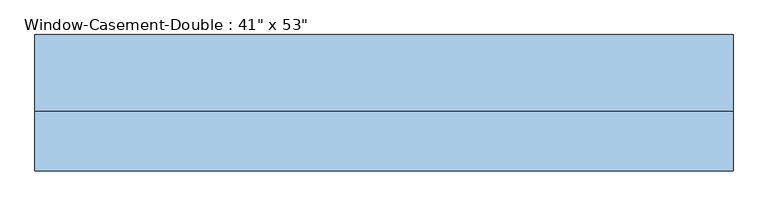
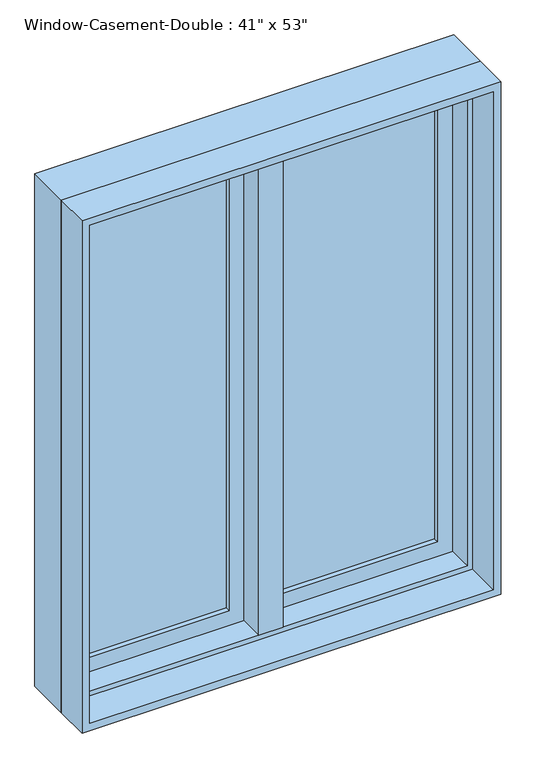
"""IFC4 building model written with IfcOpenShell, lengths in millimetres: window geometry."""

from ifc_helpers import new_model, si_unit, frame, origin, place, context, project, spatial, polyline, outline, extrude, faceted_brep, source, transform, mapped, element, save


def window_5044d55b(model_context):
    return source(origin(), model_context, "Body", "SolidModel", [
        faceted_brep([(9.525, 111.125, 2247.9), (-9.525, 111.125, 2247.9), (-9.525, 60.325, 2247.9), (9.525, 60.325, 2247.9), (9.525, 111.125, 927.1), (9.525, 60.325, 927.1), (-9.525, 60.325, 927.1), (-9.525, 111.125, 927.1), (-9.525, 60.325, 946.15), (-9.525, 60.325, 2228.85), (-30.1625, 60.325, 946.15), (-30.1625, 60.325, 2228.85), (-30.1625, -3.175, 946.15), (-30.1625, -3.175, 2228.85), (30.1625, -3.175, 946.15), (30.1625, -3.175, 2228.85), (30.1625, 60.325, 946.15), (30.1625, 60.325, 2228.85), (9.525, 60.325, 946.15), (9.525, 60.325, 2228.85)], [[[0, 1, 2, 3]], [[4, 5, 6, 7]], [[1, 0, 4, 7]], [[2, 1, 7, 6, 8, 9]], [[9, 8, 10, 11]], [[11, 10, 12, 13]], [[13, 12, 14, 15]], [[15, 14, 16, 17]], [[17, 16, 18, 19]], [[0, 3, 19, 18, 5, 4]], [[18, 8, 6, 5]], [[9, 19, 3, 2]], [[8, 18, 16, 14, 12, 10]], [[19, 9, 11, 13, 15, 17]]]),
        extrude(outline(polyline([(-66.675, 92.075), (-66.675, 85.725), (-450.85, 85.725), (-450.85, 92.075), (-66.675, 92.075)])), frame((0.0, 0.0, 984.25), z_axis=(0.0, 0.0, 1.0), x_axis=(1.0, 0.0, 0.0)), (0.0, 0.0, 1.0), 1206.5),
        extrude(outline(polyline([(-450.85, 73.025), (-450.85, 79.375), (-66.675, 79.375), (-66.675, 73.025), (-450.85, 73.025)])), frame((0.0, 0.0, 984.25), z_axis=(0.0, 0.0, 1.0), x_axis=(1.0, 0.0, 0.0)), (0.0, 0.0, 1.0), 1206.5),
        extrude(outline(polyline([(450.85, 92.075), (450.85, 85.725), (66.675, 85.725), (66.675, 92.075), (450.85, 92.075)])), frame((0.0, 0.0, 984.25), z_axis=(0.0, 0.0, 1.0), x_axis=(1.0, 0.0, 0.0)), (0.0, 0.0, 1.0), 1206.5),
        extrude(outline(polyline([(66.675, 73.025), (66.675, 79.375), (450.85, 79.375), (450.85, 73.025), (66.675, 73.025)])), frame((0.0, 0.0, 984.25), z_axis=(0.0, 0.0, 1.0), x_axis=(1.0, 0.0, 0.0)), (0.0, 0.0, 1.0), 1206.5),
        extrude(outline(polyline([(2247.9, -508.0), (927.1, -508.0), (927.1, -9.525), (2247.9, -9.525), (2247.9, -508.0)]), holes=[polyline([(2190.75, -66.675), (984.25, -66.675), (984.25, -450.85), (2190.75, -450.85), (2190.75, -66.675)])]), frame((0.0, 60.325, 0.0), z_axis=(0.0, 1.0, 0.0), x_axis=(0.0, 0.0, 1.0)), (0.0, 0.0, 1.0), 44.45),
        extrude(outline(polyline([(927.1, 508.0), (2247.9, 508.0), (2247.9, 9.525), (927.1, 9.525), (927.1, 508.0)]), holes=[polyline([(984.25, 66.675), (2190.75, 66.675), (2190.75, 450.85), (984.25, 450.85), (984.25, 66.675)])]), frame((0.0, 60.325, 0.0), z_axis=(0.0, 1.0, 0.0), x_axis=(0.0, 0.0, 1.0)), (0.0, 0.0, 1.0), 44.45),
        extrude(outline(polyline([(2260.6, -520.7), (914.4, -520.7), (914.4, 520.7), (2260.6, 520.7), (2260.6, -520.7)]), holes=[polyline([(2241.55, 501.65), (933.45, 501.65), (933.45, -501.65), (2241.55, -501.65), (2241.55, 501.65)])]), frame((0.0, -92.075, 0.0), z_axis=(0.0, 1.0, 0.0), x_axis=(0.0, 0.0, 1.0)), (0.0, 0.0, 1.0), 88.9),
        faceted_brep([(488.95, 60.325, 2228.85), (488.95, -3.175, 2228.85), (-488.95, -3.175, 2228.85), (-488.95, 60.325, 2228.85), (508.0, 111.125, 2247.9), (508.0, 60.325, 2247.9), (-508.0, 60.325, 2247.9), (-508.0, 111.125, 2247.9), (520.7, -3.175, 2260.6), (520.7, 111.125, 2260.6), (-520.7, 111.125, 2260.6), (-520.7, -3.175, 2260.6), (-488.95, -3.175, 946.15), (-488.95, 60.325, 946.15), (-508.0, 60.325, 927.1), (-508.0, 111.125, 927.1), (-520.7, 111.125, 914.4), (-520.7, -3.175, 914.4), (488.95, -3.175, 946.15), (488.95, 60.325, 946.15), (508.0, 60.325, 927.1), (508.0, 111.125, 927.1), (520.7, 111.125, 914.4), (520.7, -3.175, 914.4)], [[[0, 1, 2, 3]], [[4, 5, 6, 7]], [[8, 9, 10, 11]], [[3, 2, 12, 13]], [[7, 6, 14, 15]], [[11, 10, 16, 17]], [[13, 12, 18, 19]], [[15, 14, 20, 21]], [[17, 16, 22, 23]], [[11, 17, 23, 8], [1, 18, 12, 2]], [[19, 18, 1, 0]], [[5, 20, 14, 6], [3, 13, 19, 0]], [[21, 20, 5, 4]], [[23, 22, 9, 8]], [[9, 22, 16, 10], [7, 15, 21, 4]]]),
    ])


if __name__ == "__main__":
    model = new_model("IFC4")
    model_context = context("Model", 3, world=origin())
    ifc_project = project(units=[si_unit("LENGTHUNIT", "METRE", prefix="MILLI")], contexts=[model_context])
    site = spatial("IfcSite", under=ifc_project)
    building = spatial("IfcBuilding", under=site)
    placement = place(None, origin())
    window_shape = window_5044d55b(model_context)
    element("IfcWindow", 1, ObjectType="Window-Casement-Double : 41\" x 53\"", at=placement, inside=building, context=model_context, shape_type="MappedRepresentation", body=[
        mapped(window_shape, transform((0.0, 0.0, 0.0), x_axis=(1.0, 0.0, 0.0), y_axis=(0.0, 1.0, 0.0), z_axis=(0.0, 0.0, 1.0))),
    ])
    save(model, "model.ifc")
